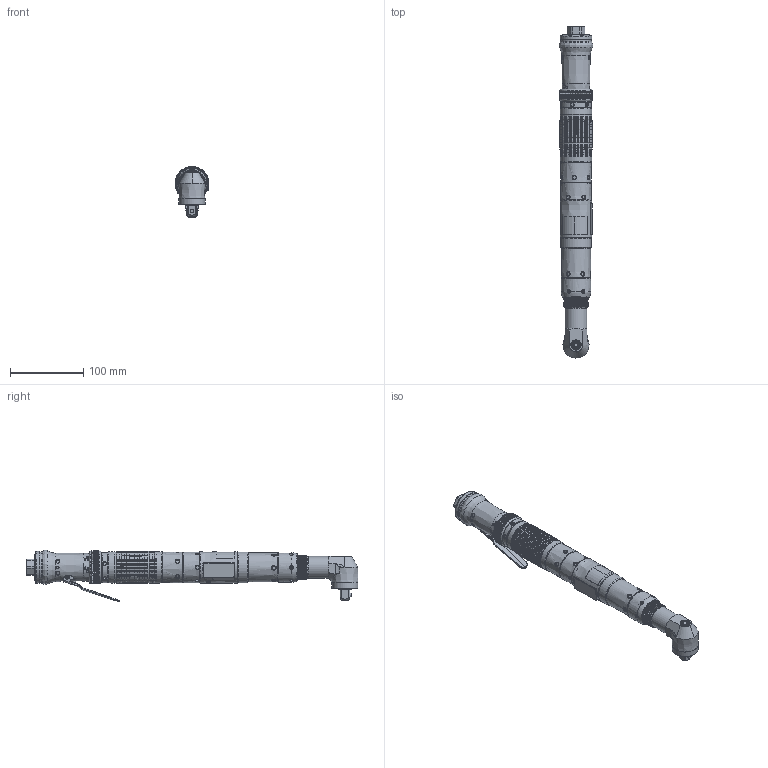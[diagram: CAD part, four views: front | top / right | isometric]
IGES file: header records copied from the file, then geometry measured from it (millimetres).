
Global section: file name: T:\siji\QA6 & QA8 MODEL\QA8 ANGLE SHUTOFF\16595001\16595001.igs; native system: Unigraphics Version X V2.0; preprocessor: Unigraphics NX IGES V2.0; date: 20070516.165257; units: inch
Bounding box: 46.21 x 452.94 x 70.45 mm (x, y, z)
Surface area: 89104.5 mm2 (no closed solid volume)
Topology: 0 solids, 0 shells, 1084 faces, 13865 edges, 13671 vertices
Faces by surface type: revolution 547, extrusion 505, bspline 30, offset 2
